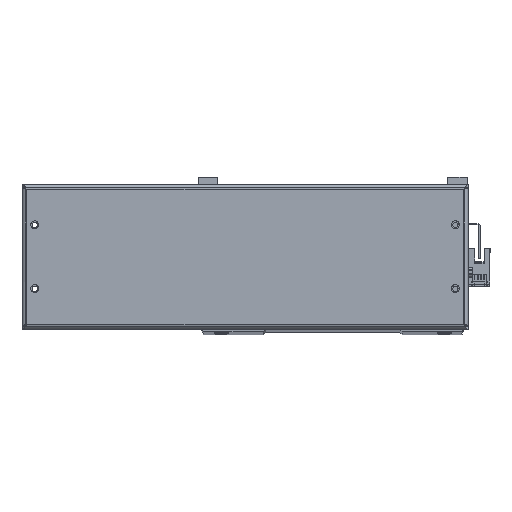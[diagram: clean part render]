
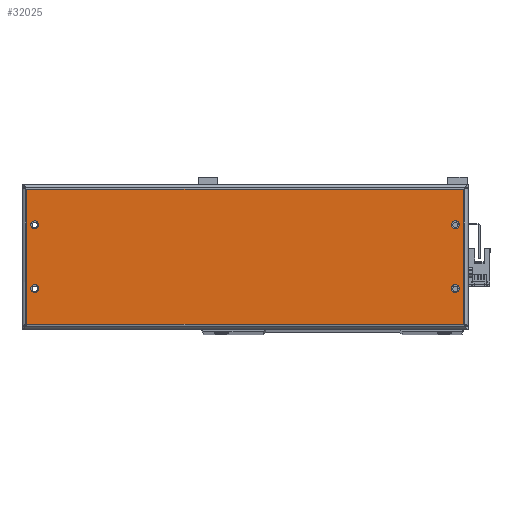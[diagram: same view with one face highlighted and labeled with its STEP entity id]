
A CAD part, top view. The second image highlights one B-rep face of the part: STEP entity #32025.
In plain terms, the highlighted planar face has unit normal (0, 0, 1) as drawn and (0, 0, -1) by its records, which use the part's own axes.
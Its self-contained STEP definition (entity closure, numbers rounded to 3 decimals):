
#7 = LINE ( 'NONE', #10536, #27302 ) ;
#613 = DIRECTION ( 'NONE',  ( 0., -1., 0. ) ) ;
#759 = FACE_OUTER_BOUND ( 'NONE', #25717, .T. ) ;
#1367 = CIRCLE ( 'NONE', #31369, 2.5 ) ;
#1416 = EDGE_LOOP ( 'NONE', ( #31403, #12832 ) ) ;
#1758 = DIRECTION ( 'NONE',  ( 0., 0., -1. ) ) ;
#1990 = CARTESIAN_POINT ( 'NONE',  ( 3586.022, 62.912, -59. ) ) ;
#2797 = DIRECTION ( 'NONE',  ( 0., 0., -1. ) ) ;
#2880 = AXIS2_PLACEMENT_3D ( 'NONE', #24043, #8061, #24381 ) ;
#2962 = ORIENTED_EDGE ( 'NONE', *, *, #19451, .T. ) ;
#3244 = AXIS2_PLACEMENT_3D ( 'NONE', #33224, #8933, #30545 ) ;
#3400 = FACE_BOUND ( 'NONE', #5338, .T. ) ;
#4481 = CARTESIAN_POINT ( 'NONE',  ( 3322.022, 62.912, -59. ) ) ;
#4499 = EDGE_CURVE ( 'NONE', #6628, #6751, #27944, .T. ) ;
#4627 = EDGE_CURVE ( 'NONE', #17709, #16100, #25653, .T. ) ;
#4677 = AXIS2_PLACEMENT_3D ( 'NONE', #29584, #14538, #28175 ) ;
#5338 = EDGE_LOOP ( 'NONE', ( #24943, #17002 ) ) ;
#5472 = CARTESIAN_POINT ( 'NONE',  ( 3317.022, 42.266, -59. ) ) ;
#5851 = CIRCLE ( 'NONE', #25158, 2.5 ) ;
#5987 = CARTESIAN_POINT ( 'NONE',  ( 3322.022, 65.412, -59. ) ) ;
#6628 = VERTEX_POINT ( 'NONE', #1990 ) ;
#6650 = CARTESIAN_POINT ( 'NONE',  ( 3322.022, 107.912, -59. ) ) ;
#6751 = VERTEX_POINT ( 'NONE', #11397 ) ;
#7614 = DIRECTION ( 'NONE',  ( 0., -1., 0. ) ) ;
#8061 = DIRECTION ( 'NONE',  ( 0., 0., -1. ) ) ;
#8933 = DIRECTION ( 'NONE',  ( 0., 0., -1. ) ) ;
#9367 = DIRECTION ( 'NONE',  ( 0., -1., 0. ) ) ;
#10536 = CARTESIAN_POINT ( 'NONE',  ( 3591.022, 128.559, -59. ) ) ;
#11290 = VECTOR ( 'NONE', #26236, 1000. ) ;
#11397 = CARTESIAN_POINT ( 'NONE',  ( 3586.022, 67.912, -59. ) ) ;
#11472 = DIRECTION ( 'NONE',  ( 0., 0., -1. ) ) ;
#11589 = EDGE_CURVE ( 'NONE', #24535, #32156, #20080, .T. ) ;
#12645 = AXIS2_PLACEMENT_3D ( 'NONE', #29938, #21115, #7614 ) ;
#12773 = VERTEX_POINT ( 'NONE', #19060 ) ;
#12832 = ORIENTED_EDGE ( 'NONE', *, *, #4627, .F. ) ;
#13321 = EDGE_CURVE ( 'NONE', #26139, #26014, #34187, .T. ) ;
#13653 = DIRECTION ( 'NONE',  ( 0., -1., 0. ) ) ;
#13656 = DIRECTION ( 'NONE',  ( 0., -1., 0. ) ) ;
#13695 = CARTESIAN_POINT ( 'NONE',  ( 3586.022, 102.912, -59. ) ) ;
#14203 = ORIENTED_EDGE ( 'NONE', *, *, #34209, .T. ) ;
#14204 = DIRECTION ( 'NONE',  ( 0., 1., 0. ) ) ;
#14418 = CARTESIAN_POINT ( 'NONE',  ( 3586.022, 65.412, -59. ) ) ;
#14538 = DIRECTION ( 'NONE',  ( 0., 0., -1. ) ) ;
#14686 = CIRCLE ( 'NONE', #35051, 2.5 ) ;
#15360 = CARTESIAN_POINT ( 'NONE',  ( 3317.022, 42.912, -59. ) ) ;
#16100 = VERTEX_POINT ( 'NONE', #4481 ) ;
#16121 = AXIS2_PLACEMENT_3D ( 'NONE', #30062, #11472, #613 ) ;
#16506 = CARTESIAN_POINT ( 'NONE',  ( 3322.022, 102.912, -59. ) ) ;
#16523 = CIRCLE ( 'NONE', #2880, 2.5 ) ;
#17002 = ORIENTED_EDGE ( 'NONE', *, *, #11589, .F. ) ;
#17181 = DIRECTION ( 'NONE',  ( 0., 0., -1. ) ) ;
#17709 = VERTEX_POINT ( 'NONE', #23895 ) ;
#18089 = EDGE_CURVE ( 'NONE', #20942, #26139, #7, .T. ) ;
#18265 = ORIENTED_EDGE ( 'NONE', *, *, #27527, .F. ) ;
#18686 = DIRECTION ( 'NONE',  ( 0., -1., 0. ) ) ;
#19060 = CARTESIAN_POINT ( 'NONE',  ( 3317.022, 127.912, -59. ) ) ;
#19181 = ORIENTED_EDGE ( 'NONE', *, *, #4499, .F. ) ;
#19451 = EDGE_CURVE ( 'NONE', #12773, #20942, #26083, .T. ) ;
#20080 = CIRCLE ( 'NONE', #16121, 2.5 ) ;
#20223 = ORIENTED_EDGE ( 'NONE', *, *, #18089, .T. ) ;
#20264 = CARTESIAN_POINT ( 'NONE',  ( 3316.375, 127.912, -59. ) ) ;
#20755 = CARTESIAN_POINT ( 'NONE',  ( 3591.668, 42.912, -59. ) ) ;
#20855 = CARTESIAN_POINT ( 'NONE',  ( 3591.022, 42.912, -59. ) ) ;
#20942 = VERTEX_POINT ( 'NONE', #27510 ) ;
#21115 = DIRECTION ( 'NONE',  ( 0., 0., -1. ) ) ;
#21138 = ORIENTED_EDGE ( 'NONE', *, *, #25445, .F. ) ;
#22183 = LINE ( 'NONE', #5472, #33358 ) ;
#22445 = PLANE ( 'NONE',  #3244 ) ;
#22817 = EDGE_CURVE ( 'NONE', #25442, #29382, #16523, .T. ) ;
#22841 = CARTESIAN_POINT ( 'NONE',  ( 3586.022, 105.412, -59. ) ) ;
#22873 = ORIENTED_EDGE ( 'NONE', *, *, #22817, .F. ) ;
#23895 = CARTESIAN_POINT ( 'NONE',  ( 3322.022, 67.912, -59. ) ) ;
#24043 = CARTESIAN_POINT ( 'NONE',  ( 3322.022, 105.412, -59. ) ) ;
#24381 = DIRECTION ( 'NONE',  ( 0., -1., 0. ) ) ;
#24535 = VERTEX_POINT ( 'NONE', #32992 ) ;
#24943 = ORIENTED_EDGE ( 'NONE', *, *, #34639, .F. ) ;
#25074 = FACE_BOUND ( 'NONE', #32761, .T. ) ;
#25158 = AXIS2_PLACEMENT_3D ( 'NONE', #14418, #1758, #25558 ) ;
#25298 = EDGE_LOOP ( 'NONE', ( #22873, #21138 ) ) ;
#25442 = VERTEX_POINT ( 'NONE', #16506 ) ;
#25445 = EDGE_CURVE ( 'NONE', #29382, #25442, #1367, .T. ) ;
#25558 = DIRECTION ( 'NONE',  ( 0., -1., 0. ) ) ;
#25653 = CIRCLE ( 'NONE', #4677, 2.5 ) ;
#25717 = EDGE_LOOP ( 'NONE', ( #2962, #20223, #33690, #14203 ) ) ;
#26014 = VERTEX_POINT ( 'NONE', #15360 ) ;
#26083 = LINE ( 'NONE', #20264, #27876 ) ;
#26139 = VERTEX_POINT ( 'NONE', #20855 ) ;
#26236 = DIRECTION ( 'NONE',  ( -1., 0., 0. ) ) ;
#27131 = CARTESIAN_POINT ( 'NONE',  ( 3322.022, 105.412, -59. ) ) ;
#27302 = VECTOR ( 'NONE', #18686, 1000. ) ;
#27510 = CARTESIAN_POINT ( 'NONE',  ( 3591.022, 127.912, -59. ) ) ;
#27527 = EDGE_CURVE ( 'NONE', #6751, #6628, #5851, .T. ) ;
#27569 = FACE_BOUND ( 'NONE', #25298, .T. ) ;
#27735 = FACE_BOUND ( 'NONE', #1416, .T. ) ;
#27876 = VECTOR ( 'NONE', #31566, 1000. ) ;
#27926 = EDGE_CURVE ( 'NONE', #16100, #17709, #30241, .T. ) ;
#27944 = CIRCLE ( 'NONE', #12645, 2.5 ) ;
#28175 = DIRECTION ( 'NONE',  ( 0., -1., 0. ) ) ;
#29382 = VERTEX_POINT ( 'NONE', #6650 ) ;
#29584 = CARTESIAN_POINT ( 'NONE',  ( 3322.022, 65.412, -59. ) ) ;
#29763 = DIRECTION ( 'NONE',  ( 0., 0., -1. ) ) ;
#29938 = CARTESIAN_POINT ( 'NONE',  ( 3586.022, 65.412, -59. ) ) ;
#30062 = CARTESIAN_POINT ( 'NONE',  ( 3586.022, 105.412, -59. ) ) ;
#30241 = CIRCLE ( 'NONE', #33094, 2.5 ) ;
#30545 = DIRECTION ( 'NONE',  ( 0., -1., 0. ) ) ;
#31369 = AXIS2_PLACEMENT_3D ( 'NONE', #27131, #2797, #13653 ) ;
#31403 = ORIENTED_EDGE ( 'NONE', *, *, #27926, .F. ) ;
#31566 = DIRECTION ( 'NONE',  ( 1., 0., 0. ) ) ;
#32025 = ADVANCED_FACE ( 'NONE', ( #27569, #27735, #3400, #25074, #759 ), #22445, .T. ) ;
#32156 = VERTEX_POINT ( 'NONE', #13695 ) ;
#32761 = EDGE_LOOP ( 'NONE', ( #19181, #18265 ) ) ;
#32992 = CARTESIAN_POINT ( 'NONE',  ( 3586.022, 107.912, -59. ) ) ;
#33094 = AXIS2_PLACEMENT_3D ( 'NONE', #5987, #29763, #13656 ) ;
#33224 = CARTESIAN_POINT ( 'NONE',  ( 3454.022, 85.412, -59. ) ) ;
#33358 = VECTOR ( 'NONE', #14204, 1000. ) ;
#33690 = ORIENTED_EDGE ( 'NONE', *, *, #13321, .T. ) ;
#34187 = LINE ( 'NONE', #20755, #11290 ) ;
#34209 = EDGE_CURVE ( 'NONE', #26014, #12773, #22183, .T. ) ;
#34639 = EDGE_CURVE ( 'NONE', #32156, #24535, #14686, .T. ) ;
#35051 = AXIS2_PLACEMENT_3D ( 'NONE', #22841, #17181, #9367 ) ;
